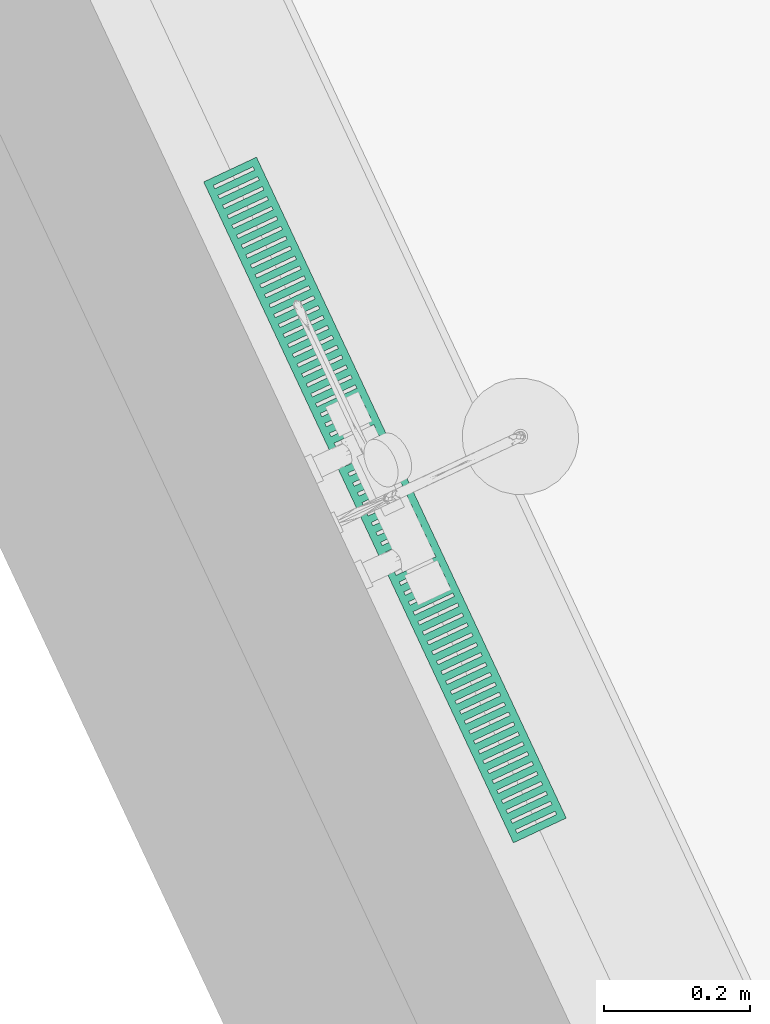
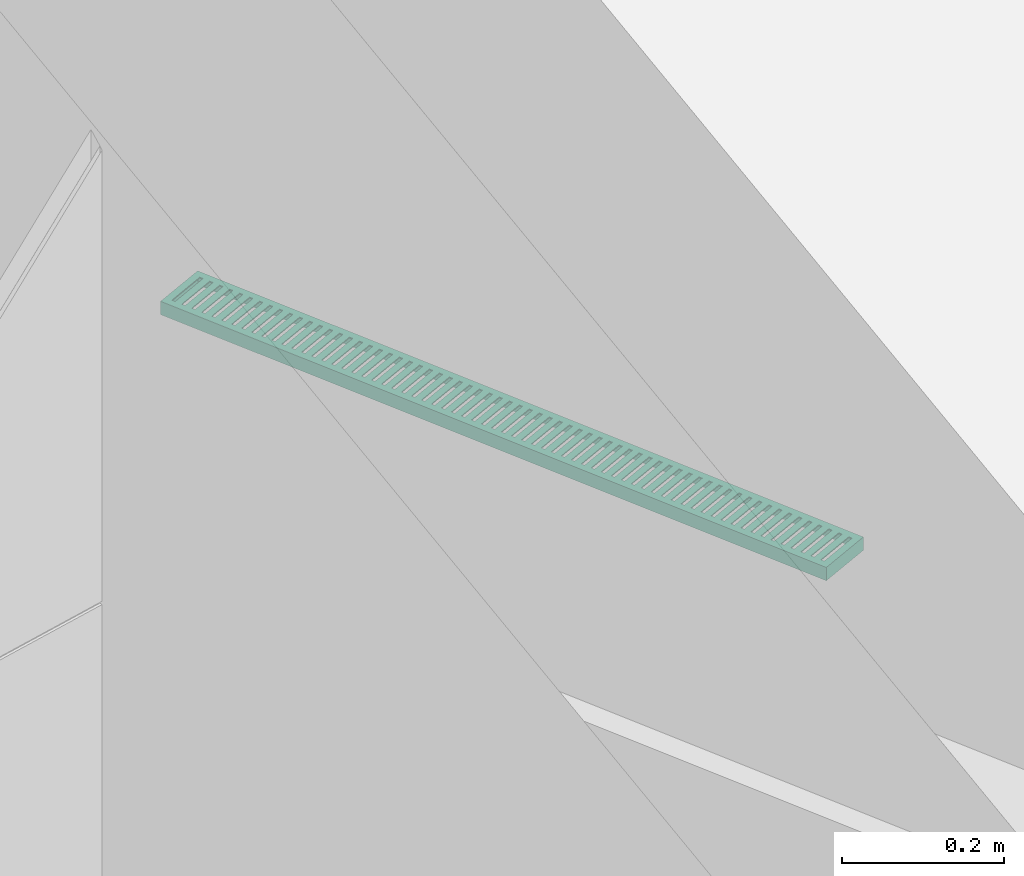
# One storey, part 49 of 125: 1 flow terminal.
"""IFC2X3 building model written with IfcOpenShell, lengths in millimetres."""

from ifc_helpers import new_model, entity, si_unit, converted_unit, direction, frame, origin, place, context, subcontext, project, spatial, faceted_brep, source, transform, mapped, material, type_object, type_shapes, element, save


model = new_model("IFC2X3")

# Units and contexts
model_context = context("Model", 3, precision=0.01, world=origin(), true_north=direction((6.123233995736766e-17, 1.0)))
plan_context = context("Plan", 3, precision=0.01, world=origin(), true_north=direction((6.123233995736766e-17, 1.0)))
body_context = subcontext(model_context, "Body", "Model", "MODEL_VIEW")
ifc_project = project(units=[si_unit("LENGTHUNIT", "METRE", prefix="MILLI"), converted_unit("PLANEANGLEUNIT", "DEGREE", entity("IfcPlaneAngleMeasure", 0.017453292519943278), si_unit("PLANEANGLEUNIT", "RADIAN"), dimensions=[0, 0, 0, 0, 0, 0, 0]), si_unit("AREAUNIT", "SQUARE_METRE")], contexts=[model_context, plan_context])

# Site, building, storey, space
site_placement = place(None, origin())
site = spatial("IfcSite", under=ifc_project, at=site_placement, Name="Default", CompositionType="ELEMENT")
building_placement = place(site_placement, origin())
building = spatial("IfcBuilding", under=site, at=building_placement, CompositionType="ELEMENT")
storey_placement = place(building_placement, frame((0.0, 0.0, 3125.0)))
storey = spatial("IfcBuildingStorey", under=building, at=storey_placement, Name="2K", CompositionType="ELEMENT", Elevation=3125.0)
space_placement = place(storey_placement, origin())
space = spatial("IfcSpace", under=storey, at=space_placement, Name="2-1.4", CompositionType="ELEMENT", InteriorOrExteriorSpace="INTERNAL")

# Flow terminal
ifc_material = material(Name="<Unnamed>")
distribution_element_type = type_object("IfcDistributionElementType", Name="HR_Plumbing-fixtures_Drain_Channel_Generic_v1:Default", material=ifc_material)
shared_shape = source(origin(), body_context, "Body", "Brep", [
    faceted_brep([(500.0, 80.0, 0.0), (-500.0, 80.0, 0.0), (-500.0, 0.0, 0.0), (500.0, 0.0, 0.0), (20.0, 70.0, 0.0), (25.0, 70.0, 0.0), (25.0, 10.0, 0.0), (20.0, 10.0, 0.0), (35.0, 70.0, 0.0), (40.0, 70.0, 0.0), (40.0, 10.0, 0.0), (35.0, 10.0, 0.0), (50.0, 70.0, 0.0), (55.0, 70.0, 0.0), (55.0, 10.0, 0.0), (50.0, 10.0, 0.0), (65.0, 70.0, 0.0), (70.0, 70.0, 0.0), (70.0, 10.0, 0.0), (65.0, 10.0, 0.0), (80.0, 70.0, 0.0), (85.0, 70.0, 0.0), (85.0, 10.0, 0.0), (80.0, 10.0, 0.0), (95.0, 70.0, 0.0), (100.0, 70.0, 0.0), (100.0, 10.0, 0.0), (95.0, 10.0, 0.0), (110.0, 70.0, 0.0), (115.0, 70.0, 0.0), (115.0, 10.0, 0.0), (110.0, 10.0, 0.0), (125.0, 70.0, 0.0), (130.0, 70.0, 0.0), (130.0, 10.0, 0.0), (125.0, 10.0, 0.0), (140.0, 70.0, 0.0), (145.0, 70.0, 0.0), (145.0, 10.0, 0.0), (140.0, 10.0, 0.0), (155.0, 70.0, 0.0), (160.0, 70.0, 0.0), (160.0, 10.0, 0.0), (155.0, 10.0, 0.0), (170.0, 70.0, 0.0), (175.0, 70.0, 0.0), (175.0, 10.0, 0.0), (170.0, 10.0, 0.0), (185.0, 70.0, 0.0), (190.0, 70.0, 0.0), (190.0, 10.0, 0.0), (185.0, 10.0, 0.0), (200.0, 70.0, 0.0), (205.0, 70.0, 0.0), (205.0, 10.0, 0.0), (200.0, 10.0, 0.0), (215.0, 70.0, 0.0), (220.0, 70.0, 0.0), (220.0, 10.0, 0.0), (215.0, 10.0, 0.0), (230.0, 70.0, 0.0), (235.0, 70.0, 0.0), (235.0, 10.0, 0.0), (230.0, 10.0, 0.0), (245.0, 70.0, 0.0), (250.0, 70.0, 0.0), (250.0, 10.0, 0.0), (245.0, 10.0, 0.0), (260.0, 70.0, 0.0), (265.0, 70.0, 0.0), (265.0, 10.0, 0.0), (260.0, 10.0, 0.0), (275.0, 70.0, 0.0), (280.0, 70.0, 0.0), (280.0, 10.0, 0.0), (275.0, 10.0, 0.0), (290.0, 70.0, 0.0), (295.0, 70.0, 0.0), (295.0, 10.0, 0.0), (290.0, 10.0, 0.0), (305.0, 70.0, 0.0), (310.0, 70.0, 0.0), (310.0, 10.0, 0.0), (305.0, 10.0, 0.0), (320.0, 70.0, 0.0), (325.0, 70.0, 0.0), (325.0, 10.0, 0.0), (320.0, 10.0, 0.0), (335.0, 70.0, 0.0), (340.0, 70.0, 0.0), (340.0, 10.0, 0.0), (335.0, 10.0, 0.0), (350.0, 70.0, 0.0), (355.0, 70.0, 0.0), (355.0, 10.0, 0.0), (350.0, 10.0, 0.0), (365.0, 70.0, 0.0), (370.0, 70.0, 0.0), (370.0, 10.0, 0.0), (365.0, 10.0, 0.0), (380.0, 70.0, 0.0), (385.0, 70.0, 0.0), (385.0, 10.0, 0.0), (380.0, 10.0, 0.0), (-25.0, 70.0, 0.0), (-20.0, 70.0, 0.0), (-20.0, 10.0, 0.0), (-25.0, 10.0, 0.0), (-40.0, 70.0, 0.0), (-35.0, 70.0, 0.0), (-35.0, 10.0, 0.0), (-40.0, 10.0, 0.0), (-55.0, 70.0, 0.0), (-50.0, 70.0, 0.0), (-50.0, 10.0, 0.0), (-55.0, 10.0, 0.0), (-70.0, 70.0, 0.0), (-65.0, 70.0, 0.0), (-65.0, 10.0, 0.0), (-70.0, 10.0, 0.0), (-85.0, 70.0, 0.0), (-80.0, 70.0, 0.0), (-80.0, 10.0, 0.0), (-85.0, 10.0, 0.0), (-100.0, 70.0, 0.0), (-95.0, 70.0, 0.0), (-95.0, 10.0, 0.0), (-100.0, 10.0, 0.0), (-115.0, 70.0, 0.0), (-110.0, 70.0, 0.0), (-110.0, 10.0, 0.0), (-115.0, 10.0, 0.0), (-130.0, 70.0, 0.0), (-125.0, 70.0, 0.0), (-125.0, 10.0, 0.0), (-130.0, 10.0, 0.0), (-145.0, 70.0, 0.0), (-140.0, 70.0, 0.0), (-140.0, 10.0, 0.0), (-145.0, 10.0, 0.0), (-160.0, 70.0, 0.0), (-155.0, 70.0, 0.0), (-155.0, 10.0, 0.0), (-160.0, 10.0, 0.0), (-175.0, 70.0, 0.0), (-170.0, 70.0, 0.0), (-170.0, 10.0, 0.0), (-175.0, 10.0, 0.0), (-190.0, 70.0, 0.0), (-185.0, 70.0, 0.0), (-185.0, 10.0, 0.0), (-190.0, 10.0, 0.0), (-205.0, 70.0, 0.0), (-200.0, 70.0, 0.0), (-200.0, 10.0, 0.0), (-205.0, 10.0, 0.0), (-220.0, 70.0, 0.0), (-215.0, 70.0, 0.0), (-215.0, 10.0, 0.0), (-220.0, 10.0, 0.0), (-235.0, 70.0, 0.0), (-230.0, 70.0, 0.0), (-230.0, 10.0, 0.0), (-235.0, 10.0, 0.0), (-250.0, 70.0, 0.0), (-245.0, 70.0, 0.0), (-245.0, 10.0, 0.0), (-250.0, 10.0, 0.0), (-265.0, 70.0, 0.0), (-260.0, 70.0, 0.0), (-260.0, 10.0, 0.0), (-265.0, 10.0, 0.0), (-280.0, 70.0, 0.0), (-275.0, 70.0, 0.0), (-275.0, 10.0, 0.0), (-280.0, 10.0, 0.0), (-295.0, 70.0, 0.0), (-290.0, 70.0, 0.0), (-290.0, 10.0, 0.0), (-295.0, 10.0, 0.0), (-310.0, 70.0, 0.0), (-305.0, 70.0, 0.0), (-305.0, 10.0, 0.0), (-310.0, 10.0, 0.0), (-325.0, 70.0, 0.0), (-320.0, 70.0, 0.0), (-320.0, 10.0, 0.0), (-325.0, 10.0, 0.0), (-340.0, 70.0, 0.0), (-335.0, 70.0, 0.0), (-335.0, 10.0, 0.0), (-340.0, 10.0, 0.0), (-355.0, 70.0, 0.0), (-350.0, 70.0, 0.0), (-350.0, 10.0, 0.0), (-355.0, 10.0, 0.0), (-370.0, 70.0, 0.0), (-365.0, 70.0, 0.0), (-365.0, 10.0, 0.0), (-370.0, 10.0, 0.0), (-385.0, 70.0, 0.0), (-380.0, 70.0, 0.0), (-380.0, 10.0, 0.0), (-385.0, 10.0, 0.0), (395.0, 70.0, 0.0), (400.0, 70.0, 0.0), (400.0, 10.0, 0.0), (395.0, 10.0, 0.0), (410.0, 70.0, 0.0), (415.0, 70.0, 0.0), (415.0, 10.0, 0.0), (410.0, 10.0, 0.0), (425.0, 70.0, 0.0), (430.0, 70.0, 0.0), (430.0, 10.0, 0.0), (425.0, 10.0, 0.0), (440.0, 70.0, 0.0), (445.0, 70.0, 0.0), (445.0, 10.0, 0.0), (440.0, 10.0, 0.0), (455.0, 70.0, 0.0), (460.0, 70.0, 0.0), (460.0, 10.0, 0.0), (455.0, 10.0, 0.0), (470.0, 70.0, 0.0), (475.0, 70.0, 0.0), (475.0, 10.0, 0.0), (470.0, 10.0, 0.0), (485.0, 70.0, 0.0), (490.0, 70.0, 0.0), (490.0, 10.0, 0.0), (485.0, 10.0, 0.0), (-400.0, 70.0, 0.0), (-395.0, 70.0, 0.0), (-395.0, 10.0, 0.0), (-400.0, 10.0, 0.0), (-415.0, 70.0, 0.0), (-410.0, 70.0, 0.0), (-410.0, 10.0, 0.0), (-415.0, 10.0, 0.0), (-430.0, 70.0, 0.0), (-425.0, 70.0, 0.0), (-425.0, 10.0, 0.0), (-430.0, 10.0, 0.0), (-445.0, 70.0, 0.0), (-440.0, 70.0, 0.0), (-440.0, 10.0, 0.0), (-445.0, 10.0, 0.0), (-460.0, 70.0, 0.0), (-455.0, 70.0, 0.0), (-455.0, 10.0, 0.0), (-460.0, 10.0, 0.0), (-475.0, 70.0, 0.0), (-470.0, 70.0, 0.0), (-470.0, 10.0, 0.0), (-475.0, 10.0, 0.0), (-490.0, 70.0, 0.0), (-485.0, 70.0, 0.0), (-485.0, 10.0, 0.0), (-490.0, 10.0, 0.0), (-10.0, 70.0, 0.0), (-5.0, 70.0, 0.0), (-5.0, 10.0, 0.0), (-10.0, 10.0, 0.0), (5.0, 70.0, 0.0), (10.0, 70.0, 0.0), (10.0, 10.0, 0.0), (5.0, 10.0, 0.0), (-500.0, 80.0, -20.0), (500.0, 80.0, -20.0), (500.0, 0.0, -20.0), (-500.0, 0.0, -20.0), (498.5000000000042, 78.500000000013, -20.0), (-498.49999999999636, 78.500000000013, -20.0), (-498.49999999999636, 1.5000000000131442, -20.0), (498.5000000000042, 1.5000000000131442, -20.0), (498.5000000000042, 78.500000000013, -1.5000000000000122), (498.5000000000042, 1.5000000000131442, -1.5000000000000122), (-498.49999999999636, 1.5000000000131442, -1.5000000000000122), (-498.49999999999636, 78.500000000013, -1.5000000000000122), (25.0, 70.0, -1.5000000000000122), (20.0, 70.0, -1.5000000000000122), (20.0, 10.0, -1.5000000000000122), (25.0, 10.0, -1.5000000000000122), (40.0, 70.0, -1.5000000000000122), (35.0, 70.0, -1.5000000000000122), (35.0, 10.0, -1.5000000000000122), (40.0, 10.0, -1.5000000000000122), (55.0, 70.0, -1.5000000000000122), (50.0, 70.0, -1.5000000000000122), (50.0, 10.0, -1.5000000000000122), (55.0, 10.0, -1.5000000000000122), (70.0, 70.0, -1.5000000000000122), (65.0, 70.0, -1.5000000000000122), (65.0, 10.0, -1.5000000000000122), (70.0, 10.0, -1.5000000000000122), (85.0, 70.0, -1.5000000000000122), (80.0, 70.0, -1.5000000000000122), (80.0, 10.0, -1.5000000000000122), (85.0, 10.0, -1.5000000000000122), (100.0, 70.0, -1.5000000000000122), (95.0, 70.0, -1.5000000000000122), (95.0, 10.0, -1.5000000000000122), (100.0, 10.0, -1.5000000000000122), (115.0, 70.0, -1.5000000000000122), (110.0, 70.0, -1.5000000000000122), (110.0, 10.0, -1.5000000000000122), (115.0, 10.0, -1.5000000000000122), (130.0, 70.0, -1.5000000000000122), (125.0, 70.0, -1.5000000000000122), (125.0, 10.0, -1.5000000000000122), (130.0, 10.0, -1.5000000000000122), (145.0, 70.0, -1.5000000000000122), (140.0, 70.0, -1.5000000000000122), (140.0, 10.0, -1.5000000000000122), (145.0, 10.0, -1.5000000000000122), (160.0, 70.0, -1.5000000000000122), (155.0, 70.0, -1.5000000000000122), (155.0, 10.0, -1.5000000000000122), (160.0, 10.0, -1.5000000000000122), (175.0, 70.0, -1.5000000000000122), (170.0, 70.0, -1.5000000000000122), (170.0, 10.0, -1.5000000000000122), (175.0, 10.0, -1.5000000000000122), (190.0, 70.0, -1.5000000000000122), (185.0, 70.0, -1.5000000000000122), (185.0, 10.0, -1.5000000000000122), (190.0, 10.0, -1.5000000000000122), (205.0, 70.0, -1.5000000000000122), (200.0, 70.0, -1.5000000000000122), (200.0, 10.0, -1.5000000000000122), (205.0, 10.0, -1.5000000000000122), (220.0, 70.0, -1.5000000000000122), (215.0, 70.0, -1.5000000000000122), (215.0, 10.0, -1.5000000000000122), (220.0, 10.0, -1.5000000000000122), (235.0, 70.0, -1.5000000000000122), (230.0, 70.0, -1.5000000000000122), (230.0, 10.0, -1.5000000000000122), (235.0, 10.0, -1.5000000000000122), (250.0, 70.0, -1.5000000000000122), (245.0, 70.0, -1.5000000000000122), (245.0, 10.0, -1.5000000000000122), (250.0, 10.0, -1.5000000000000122), (265.0, 70.0, -1.5000000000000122), (260.0, 70.0, -1.5000000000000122), (260.0, 10.0, -1.5000000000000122), (265.0, 10.0, -1.5000000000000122), (280.0, 70.0, -1.5000000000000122), (275.0, 70.0, -1.5000000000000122), (275.0, 10.0, -1.5000000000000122), (280.0, 10.0, -1.5000000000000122), (295.0, 70.0, -1.5000000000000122), (290.0, 70.0, -1.5000000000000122), (290.0, 10.0, -1.5000000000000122), (295.0, 10.0, -1.5000000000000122), (310.0, 70.0, -1.5000000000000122), (305.0, 70.0, -1.5000000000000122), (305.0, 10.0, -1.5000000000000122), (310.0, 10.0, -1.5000000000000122), (325.0, 70.0, -1.5000000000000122), (320.0, 70.0, -1.5000000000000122), (320.0, 10.0, -1.5000000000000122), (325.0, 10.0, -1.5000000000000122), (340.0, 70.0, -1.5000000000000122), (335.0, 70.0, -1.5000000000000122), (335.0, 10.0, -1.5000000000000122), (340.0, 10.0, -1.5000000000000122), (355.0, 70.0, -1.5000000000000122), (350.0, 70.0, -1.5000000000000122), (350.0, 10.0, -1.5000000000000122), (355.0, 10.0, -1.5000000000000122), (370.0, 70.0, -1.5000000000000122), (365.0, 70.0, -1.5000000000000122), (365.0, 10.0, -1.5000000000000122), (370.0, 10.0, -1.5000000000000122), (385.0, 70.0, -1.5000000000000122), (380.0, 70.0, -1.5000000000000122), (380.0, 10.0, -1.5000000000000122), (385.0, 10.0, -1.5000000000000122), (-20.0, 70.0, -1.5000000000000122), (-25.0, 70.0, -1.5000000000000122), (-25.0, 10.0, -1.5000000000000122), (-20.0, 10.0, -1.5000000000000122), (-35.0, 70.0, -1.5000000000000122), (-40.0, 70.0, -1.5000000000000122), (-40.0, 10.0, -1.5000000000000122), (-35.0, 10.0, -1.5000000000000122), (-50.0, 70.0, -1.5000000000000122), (-55.0, 70.0, -1.5000000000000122), (-55.0, 10.0, -1.5000000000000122), (-50.0, 10.0, -1.5000000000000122), (-65.0, 70.0, -1.5000000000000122), (-70.0, 70.0, -1.5000000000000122), (-70.0, 10.0, -1.5000000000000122), (-65.0, 10.0, -1.5000000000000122), (-80.0, 70.0, -1.5000000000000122), (-85.0, 70.0, -1.5000000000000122), (-85.0, 10.0, -1.5000000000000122), (-80.0, 10.0, -1.5000000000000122), (-95.0, 70.0, -1.5000000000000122), (-100.0, 70.0, -1.5000000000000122), (-100.0, 10.0, -1.5000000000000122), (-95.0, 10.0, -1.5000000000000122), (-110.0, 70.0, -1.5000000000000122), (-115.0, 70.0, -1.5000000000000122), (-115.0, 10.0, -1.5000000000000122), (-110.0, 10.0, -1.5000000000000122), (-125.0, 70.0, -1.5000000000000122), (-130.0, 70.0, -1.5000000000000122), (-130.0, 10.0, -1.5000000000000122), (-125.0, 10.0, -1.5000000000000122), (-140.0, 70.0, -1.5000000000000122), (-145.0, 70.0, -1.5000000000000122), (-145.0, 10.0, -1.5000000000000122), (-140.0, 10.0, -1.5000000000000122), (-155.0, 70.0, -1.5000000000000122), (-160.0, 70.0, -1.5000000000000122), (-160.0, 10.0, -1.5000000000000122), (-155.0, 10.0, -1.5000000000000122), (-170.0, 70.0, -1.5000000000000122), (-175.0, 70.0, -1.5000000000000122), (-175.0, 10.0, -1.5000000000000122), (-170.0, 10.0, -1.5000000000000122), (-185.0, 70.0, -1.5000000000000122), (-190.0, 70.0, -1.5000000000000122), (-190.0, 10.0, -1.5000000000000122), (-185.0, 10.0, -1.5000000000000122), (-200.0, 70.0, -1.5000000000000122), (-205.0, 70.0, -1.5000000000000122), (-205.0, 10.0, -1.5000000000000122), (-200.0, 10.0, -1.5000000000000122), (-215.0, 70.0, -1.5000000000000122), (-220.0, 70.0, -1.5000000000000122), (-220.0, 10.0, -1.5000000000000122), (-215.0, 10.0, -1.5000000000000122), (-230.0, 70.0, -1.5000000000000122), (-235.0, 70.0, -1.5000000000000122), (-235.0, 10.0, -1.5000000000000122), (-230.0, 10.0, -1.5000000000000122), (-245.0, 70.0, -1.5000000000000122), (-250.0, 70.0, -1.5000000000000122), (-250.0, 10.0, -1.5000000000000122), (-245.0, 10.0, -1.5000000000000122), (-260.0, 70.0, -1.5000000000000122), (-265.0, 70.0, -1.5000000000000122), (-265.0, 10.0, -1.5000000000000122), (-260.0, 10.0, -1.5000000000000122), (-275.0, 70.0, -1.5000000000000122), (-280.0, 70.0, -1.5000000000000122), (-280.0, 10.0, -1.5000000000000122), (-275.0, 10.0, -1.5000000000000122), (-290.0, 70.0, -1.5000000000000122), (-295.0, 70.0, -1.5000000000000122), (-295.0, 10.0, -1.5000000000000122), (-290.0, 10.0, -1.5000000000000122), (-305.0, 70.0, -1.5000000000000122), (-310.0, 70.0, -1.5000000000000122), (-310.0, 10.0, -1.5000000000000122), (-305.0, 10.0, -1.5000000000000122), (-320.0, 70.0, -1.5000000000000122), (-325.0, 70.0, -1.5000000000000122), (-325.0, 10.0, -1.5000000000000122), (-320.0, 10.0, -1.5000000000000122), (-335.0, 70.0, -1.5000000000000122), (-340.0, 70.0, -1.5000000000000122), (-340.0, 10.0, -1.5000000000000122), (-335.0, 10.0, -1.5000000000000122), (-350.0, 70.0, -1.5000000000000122), (-355.0, 70.0, -1.5000000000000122), (-355.0, 10.0, -1.5000000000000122), (-350.0, 10.0, -1.5000000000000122), (-365.0, 70.0, -1.5000000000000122), (-370.0, 70.0, -1.5000000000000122), (-370.0, 10.0, -1.5000000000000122), (-365.0, 10.0, -1.5000000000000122), (-380.0, 70.0, -1.5000000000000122), (-385.0, 70.0, -1.5000000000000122), (-385.0, 10.0, -1.5000000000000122), (-380.0, 10.0, -1.5000000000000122), (400.0, 70.0, -1.5000000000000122), (395.0, 70.0, -1.5000000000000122), (395.0, 10.0, -1.5000000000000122), (400.0, 10.0, -1.5000000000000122), (415.0, 70.0, -1.5000000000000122), (410.0, 70.0, -1.5000000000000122), (410.0, 10.0, -1.5000000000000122), (415.0, 10.0, -1.5000000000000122), (430.0, 70.0, -1.5000000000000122), (425.0, 70.0, -1.5000000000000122), (425.0, 10.0, -1.5000000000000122), (430.0, 10.0, -1.5000000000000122), (445.0, 70.0, -1.5000000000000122), (440.0, 70.0, -1.5000000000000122), (440.0, 10.0, -1.5000000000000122), (445.0, 10.0, -1.5000000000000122), (460.0, 70.0, -1.5000000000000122), (455.0, 70.0, -1.5000000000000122), (455.0, 10.0, -1.5000000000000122), (460.0, 10.0, -1.5000000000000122), (475.0, 70.0, -1.5000000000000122), (470.0, 70.0, -1.5000000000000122), (470.0, 10.0, -1.5000000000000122), (475.0, 10.0, -1.5000000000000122), (490.0, 70.0, -1.5000000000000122), (485.0, 70.0, -1.5000000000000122), (485.0, 10.0, -1.5000000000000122), (490.0, 10.0, -1.5000000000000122), (-395.0, 70.0, -1.5000000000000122), (-400.0, 70.0, -1.5000000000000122), (-400.0, 10.0, -1.5000000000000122), (-395.0, 10.0, -1.5000000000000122), (-410.0, 70.0, -1.5000000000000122), (-415.0, 70.0, -1.5000000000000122), (-415.0, 10.0, -1.5000000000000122), (-410.0, 10.0, -1.5000000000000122), (-425.0, 70.0, -1.5000000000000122), (-430.0, 70.0, -1.5000000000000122), (-430.0, 10.0, -1.5000000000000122), (-425.0, 10.0, -1.5000000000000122), (-440.0, 70.0, -1.5000000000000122), (-445.0, 70.0, -1.5000000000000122), (-445.0, 10.0, -1.5000000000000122), (-440.0, 10.0, -1.5000000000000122), (-455.0, 70.0, -1.5000000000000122), (-460.0, 70.0, -1.5000000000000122), (-460.0, 10.0, -1.5000000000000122), (-455.0, 10.0, -1.5000000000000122), (-470.0, 70.0, -1.5000000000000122), (-475.0, 70.0, -1.5000000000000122), (-475.0, 10.0, -1.5000000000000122), (-470.0, 10.0, -1.5000000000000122), (-485.0, 70.0, -1.5000000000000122), (-490.0, 70.0, -1.5000000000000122), (-490.0, 10.0, -1.5000000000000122), (-485.0, 10.0, -1.5000000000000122), (-5.0, 70.0, -1.5000000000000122), (-10.0, 70.0, -1.5000000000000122), (-10.0, 10.0, -1.5000000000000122), (-5.0, 10.0, -1.5000000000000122), (10.0, 70.0, -1.5000000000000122), (5.0, 70.0, -1.5000000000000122), (5.0, 10.0, -1.5000000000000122), (10.0, 10.0, -1.5000000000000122)], [[[0, 1, 2, 3], [4, 5, 6, 7], [8, 9, 10, 11], [12, 13, 14, 15], [16, 17, 18, 19], [20, 21, 22, 23], [24, 25, 26, 27], [28, 29, 30, 31], [32, 33, 34, 35], [36, 37, 38, 39], [40, 41, 42, 43], [44, 45, 46, 47], [48, 49, 50, 51], [52, 53, 54, 55], [56, 57, 58, 59], [60, 61, 62, 63], [64, 65, 66, 67], [68, 69, 70, 71], [72, 73, 74, 75], [76, 77, 78, 79], [80, 81, 82, 83], [84, 85, 86, 87], [88, 89, 90, 91], [92, 93, 94, 95], [96, 97, 98, 99], [100, 101, 102, 103], [104, 105, 106, 107], [108, 109, 110, 111], [112, 113, 114, 115], [116, 117, 118, 119], [120, 121, 122, 123], [124, 125, 126, 127], [128, 129, 130, 131], [132, 133, 134, 135], [136, 137, 138, 139], [140, 141, 142, 143], [144, 145, 146, 147], [148, 149, 150, 151], [152, 153, 154, 155], [156, 157, 158, 159], [160, 161, 162, 163], [164, 165, 166, 167], [168, 169, 170, 171], [172, 173, 174, 175], [176, 177, 178, 179], [180, 181, 182, 183], [184, 185, 186, 187], [188, 189, 190, 191], [192, 193, 194, 195], [196, 197, 198, 199], [200, 201, 202, 203], [204, 205, 206, 207], [208, 209, 210, 211], [212, 213, 214, 215], [216, 217, 218, 219], [220, 221, 222, 223], [224, 225, 226, 227], [228, 229, 230, 231], [232, 233, 234, 235], [236, 237, 238, 239], [240, 241, 242, 243], [244, 245, 246, 247], [248, 249, 250, 251], [252, 253, 254, 255], [256, 257, 258, 259], [260, 261, 262, 263], [264, 265, 266, 267]], [[268, 269, 270, 271], [272, 273, 274, 275]], [[1, 0, 269, 268]], [[2, 1, 268, 271]], [[3, 2, 271, 270]], [[0, 3, 270, 269]], [[276, 277, 278, 279], [280, 281, 282, 283], [284, 285, 286, 287], [288, 289, 290, 291], [292, 293, 294, 295], [296, 297, 298, 299], [300, 301, 302, 303], [304, 305, 306, 307], [308, 309, 310, 311], [312, 313, 314, 315], [316, 317, 318, 319], [320, 321, 322, 323], [324, 325, 326, 327], [328, 329, 330, 331], [332, 333, 334, 335], [336, 337, 338, 339], [340, 341, 342, 343], [344, 345, 346, 347], [348, 349, 350, 351], [352, 353, 354, 355], [356, 357, 358, 359], [360, 361, 362, 363], [364, 365, 366, 367], [368, 369, 370, 371], [372, 373, 374, 375], [376, 377, 378, 379], [380, 381, 382, 383], [384, 385, 386, 387], [388, 389, 390, 391], [392, 393, 394, 395], [396, 397, 398, 399], [400, 401, 402, 403], [404, 405, 406, 407], [408, 409, 410, 411], [412, 413, 414, 415], [416, 417, 418, 419], [420, 421, 422, 423], [424, 425, 426, 427], [428, 429, 430, 431], [432, 433, 434, 435], [436, 437, 438, 439], [440, 441, 442, 443], [444, 445, 446, 447], [448, 449, 450, 451], [452, 453, 454, 455], [456, 457, 458, 459], [460, 461, 462, 463], [464, 465, 466, 467], [468, 469, 470, 471], [472, 473, 474, 475], [476, 477, 478, 479], [480, 481, 482, 483], [484, 485, 486, 487], [488, 489, 490, 491], [492, 493, 494, 495], [496, 497, 498, 499], [500, 501, 502, 503], [504, 505, 506, 507], [508, 509, 510, 511], [512, 513, 514, 515], [516, 517, 518, 519], [520, 521, 522, 523], [524, 525, 526, 527], [528, 529, 530, 531], [532, 533, 534, 535], [536, 537, 538, 539], [540, 541, 542, 543]], [[276, 279, 273, 272]], [[279, 278, 274, 273]], [[278, 277, 275, 274]], [[277, 276, 272, 275]], [[5, 4, 281, 280]], [[4, 7, 282, 281]], [[7, 6, 283, 282]], [[6, 5, 280, 283]], [[9, 8, 285, 284]], [[8, 11, 286, 285]], [[11, 10, 287, 286]], [[10, 9, 284, 287]], [[13, 12, 289, 288]], [[12, 15, 290, 289]], [[15, 14, 291, 290]], [[14, 13, 288, 291]], [[17, 16, 293, 292]], [[16, 19, 294, 293]], [[19, 18, 295, 294]], [[18, 17, 292, 295]], [[21, 20, 297, 296]], [[20, 23, 298, 297]], [[23, 22, 299, 298]], [[22, 21, 296, 299]], [[25, 24, 301, 300]], [[24, 27, 302, 301]], [[27, 26, 303, 302]], [[26, 25, 300, 303]], [[29, 28, 305, 304]], [[28, 31, 306, 305]], [[31, 30, 307, 306]], [[30, 29, 304, 307]], [[33, 32, 309, 308]], [[32, 35, 310, 309]], [[35, 34, 311, 310]], [[34, 33, 308, 311]], [[37, 36, 313, 312]], [[36, 39, 314, 313]], [[39, 38, 315, 314]], [[38, 37, 312, 315]], [[41, 40, 317, 316]], [[40, 43, 318, 317]], [[43, 42, 319, 318]], [[42, 41, 316, 319]], [[45, 44, 321, 320]], [[44, 47, 322, 321]], [[47, 46, 323, 322]], [[46, 45, 320, 323]], [[49, 48, 325, 324]], [[48, 51, 326, 325]], [[51, 50, 327, 326]], [[50, 49, 324, 327]], [[53, 52, 329, 328]], [[52, 55, 330, 329]], [[55, 54, 331, 330]], [[54, 53, 328, 331]], [[57, 56, 333, 332]], [[56, 59, 334, 333]], [[59, 58, 335, 334]], [[58, 57, 332, 335]], [[61, 60, 337, 336]], [[60, 63, 338, 337]], [[63, 62, 339, 338]], [[62, 61, 336, 339]], [[65, 64, 341, 340]], [[64, 67, 342, 341]], [[67, 66, 343, 342]], [[66, 65, 340, 343]], [[69, 68, 345, 344]], [[68, 71, 346, 345]], [[71, 70, 347, 346]], [[70, 69, 344, 347]], [[73, 72, 349, 348]], [[72, 75, 350, 349]], [[75, 74, 351, 350]], [[74, 73, 348, 351]], [[77, 76, 353, 352]], [[76, 79, 354, 353]], [[79, 78, 355, 354]], [[78, 77, 352, 355]], [[81, 80, 357, 356]], [[80, 83, 358, 357]], [[83, 82, 359, 358]], [[82, 81, 356, 359]], [[85, 84, 361, 360]], [[84, 87, 362, 361]], [[87, 86, 363, 362]], [[86, 85, 360, 363]], [[89, 88, 365, 364]], [[88, 91, 366, 365]], [[91, 90, 367, 366]], [[90, 89, 364, 367]], [[93, 92, 369, 368]], [[92, 95, 370, 369]], [[95, 94, 371, 370]], [[94, 93, 368, 371]], [[97, 96, 373, 372]], [[96, 99, 374, 373]], [[99, 98, 375, 374]], [[98, 97, 372, 375]], [[101, 100, 377, 376]], [[100, 103, 378, 377]], [[103, 102, 379, 378]], [[102, 101, 376, 379]], [[105, 104, 381, 380]], [[104, 107, 382, 381]], [[107, 106, 383, 382]], [[106, 105, 380, 383]], [[109, 108, 385, 384]], [[108, 111, 386, 385]], [[111, 110, 387, 386]], [[110, 109, 384, 387]], [[113, 112, 389, 388]], [[112, 115, 390, 389]], [[115, 114, 391, 390]], [[114, 113, 388, 391]], [[117, 116, 393, 392]], [[116, 119, 394, 393]], [[119, 118, 395, 394]], [[118, 117, 392, 395]], [[121, 120, 397, 396]], [[120, 123, 398, 397]], [[123, 122, 399, 398]], [[122, 121, 396, 399]], [[125, 124, 401, 400]], [[124, 127, 402, 401]], [[127, 126, 403, 402]], [[126, 125, 400, 403]], [[129, 128, 405, 404]], [[128, 131, 406, 405]], [[131, 130, 407, 406]], [[130, 129, 404, 407]], [[133, 132, 409, 408]], [[132, 135, 410, 409]], [[135, 134, 411, 410]], [[134, 133, 408, 411]], [[137, 136, 413, 412]], [[136, 139, 414, 413]], [[139, 138, 415, 414]], [[138, 137, 412, 415]], [[141, 140, 417, 416]], [[140, 143, 418, 417]], [[143, 142, 419, 418]], [[142, 141, 416, 419]], [[145, 144, 421, 420]], [[144, 147, 422, 421]], [[147, 146, 423, 422]], [[146, 145, 420, 423]], [[149, 148, 425, 424]], [[148, 151, 426, 425]], [[151, 150, 427, 426]], [[150, 149, 424, 427]], [[153, 152, 429, 428]], [[152, 155, 430, 429]], [[155, 154, 431, 430]], [[154, 153, 428, 431]], [[157, 156, 433, 432]], [[156, 159, 434, 433]], [[159, 158, 435, 434]], [[158, 157, 432, 435]], [[161, 160, 437, 436]], [[160, 163, 438, 437]], [[163, 162, 439, 438]], [[162, 161, 436, 439]], [[165, 164, 441, 440]], [[164, 167, 442, 441]], [[167, 166, 443, 442]], [[166, 165, 440, 443]], [[169, 168, 445, 444]], [[168, 171, 446, 445]], [[171, 170, 447, 446]], [[170, 169, 444, 447]], [[173, 172, 449, 448]], [[172, 175, 450, 449]], [[175, 174, 451, 450]], [[174, 173, 448, 451]], [[177, 176, 453, 452]], [[176, 179, 454, 453]], [[179, 178, 455, 454]], [[178, 177, 452, 455]], [[181, 180, 457, 456]], [[180, 183, 458, 457]], [[183, 182, 459, 458]], [[182, 181, 456, 459]], [[185, 184, 461, 460]], [[184, 187, 462, 461]], [[187, 186, 463, 462]], [[186, 185, 460, 463]], [[189, 188, 465, 464]], [[188, 191, 466, 465]], [[191, 190, 467, 466]], [[190, 189, 464, 467]], [[193, 192, 469, 468]], [[192, 195, 470, 469]], [[195, 194, 471, 470]], [[194, 193, 468, 471]], [[197, 196, 473, 472]], [[196, 199, 474, 473]], [[199, 198, 475, 474]], [[198, 197, 472, 475]], [[201, 200, 477, 476]], [[200, 203, 478, 477]], [[203, 202, 479, 478]], [[202, 201, 476, 479]], [[205, 204, 481, 480]], [[204, 207, 482, 481]], [[207, 206, 483, 482]], [[206, 205, 480, 483]], [[209, 208, 485, 484]], [[208, 211, 486, 485]], [[211, 210, 487, 486]], [[210, 209, 484, 487]], [[213, 212, 489, 488]], [[212, 215, 490, 489]], [[215, 214, 491, 490]], [[214, 213, 488, 491]], [[217, 216, 493, 492]], [[216, 219, 494, 493]], [[219, 218, 495, 494]], [[218, 217, 492, 495]], [[221, 220, 497, 496]], [[220, 223, 498, 497]], [[223, 222, 499, 498]], [[222, 221, 496, 499]], [[225, 224, 501, 500]], [[224, 227, 502, 501]], [[227, 226, 503, 502]], [[226, 225, 500, 503]], [[229, 228, 505, 504]], [[228, 231, 506, 505]], [[231, 230, 507, 506]], [[230, 229, 504, 507]], [[233, 232, 509, 508]], [[232, 235, 510, 509]], [[235, 234, 511, 510]], [[234, 233, 508, 511]], [[237, 236, 513, 512]], [[236, 239, 514, 513]], [[239, 238, 515, 514]], [[238, 237, 512, 515]], [[241, 240, 517, 516]], [[240, 243, 518, 517]], [[243, 242, 519, 518]], [[242, 241, 516, 519]], [[245, 244, 521, 520]], [[244, 247, 522, 521]], [[247, 246, 523, 522]], [[246, 245, 520, 523]], [[249, 248, 525, 524]], [[248, 251, 526, 525]], [[251, 250, 527, 526]], [[250, 249, 524, 527]], [[253, 252, 529, 528]], [[252, 255, 530, 529]], [[255, 254, 531, 530]], [[254, 253, 528, 531]], [[257, 256, 533, 532]], [[256, 259, 534, 533]], [[259, 258, 535, 534]], [[258, 257, 532, 535]], [[261, 260, 537, 536]], [[260, 263, 538, 537]], [[263, 262, 539, 538]], [[262, 261, 536, 539]], [[265, 264, 541, 540]], [[264, 267, 542, 541]], [[267, 266, 543, 542]], [[266, 265, 540, 543]]]),
])
type_shapes(distribution_element_type, [shared_shape])
flow_terminal_placement = place(space_placement, frame((-1566.7872087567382, 7855.192837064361, 0.0), z_axis=(0.0, 0.0, 1.0), x_axis=(0.4244360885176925, -0.9054578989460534, 0.0)))
element("IfcFlowTerminal", 1, at=flow_terminal_placement, inside=space, type_object=distribution_element_type, material=ifc_material, Name="HR_Plumbing-fixtures_Drain_Channel_Generic_v1:Default", ObjectType="HR_Plumbing-fixtures_Drain_Channel_Generic_v1:Default", context=body_context, shape_type="MappedRepresentation", body=[
    mapped(shared_shape, transform((0.0, 0.0, 0.0), scale=1.0)),
])

save(model, "model.ifc")
